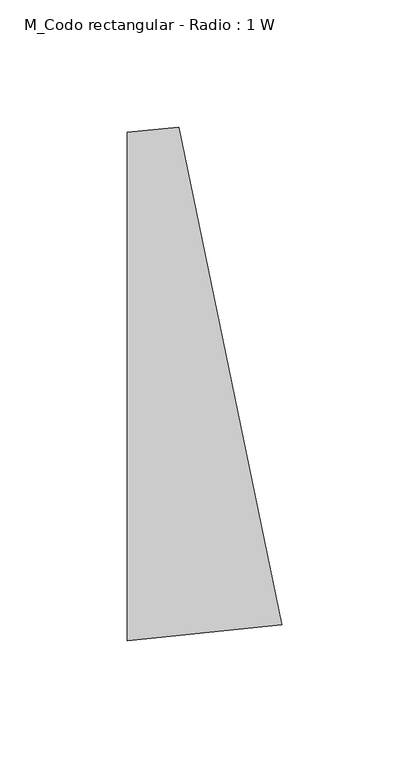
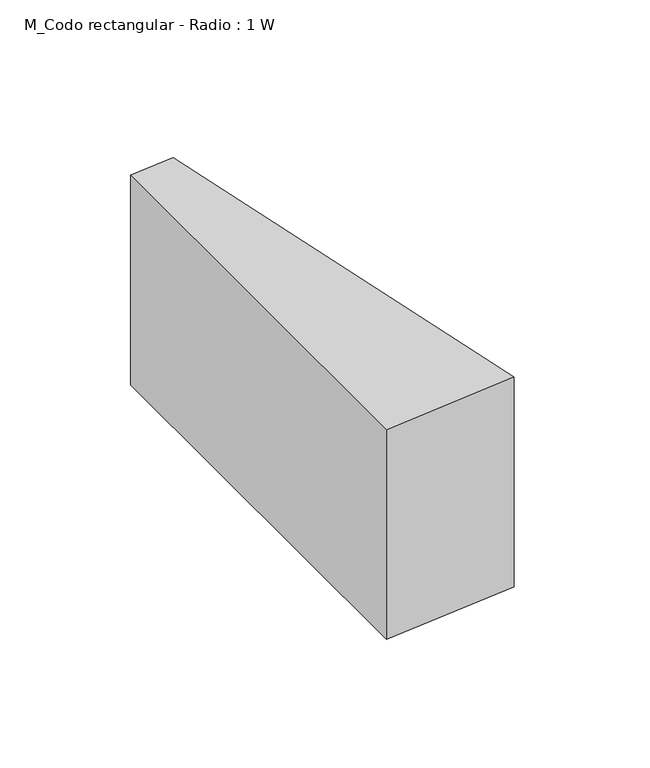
"""IFC4 building model written with IfcOpenShell, lengths in millimetres: duct fitting geometry, M_Codo rectangular - Radio : 1 W."""

from ifc_helpers import new_model, si_unit, point, frame, frame_2d, origin, place, context, project, spatial, polyline, circle_curve, trimmed, segment, composite_curve, outline, extrude, source, transform, mapped, element, save


def m_codo_rectangular_radio_1_w_934c6316(model_context):
    return source(origin(), model_context, "Body", "SweptSolid", [
        extrude(outline(composite_curve([segment(trimmed(circle_curve(frame_2d((-20.5061765, 200.0)), 300.0), [point((40.3723625, -93.7580697))], [point((-20.5061765, -100.0))], False, "CARTESIAN"), True, "CONTINUOUS"), segment(polyline([(-20.5061765, -100.0), (-20.5061765, 100.0)]), True, "CONTINUOUS"), segment(trimmed(circle_curve(frame_2d((-20.5061765, 200.0)), 100.0), [point((-20.5061765, 100.0))], [point((-0.2133302, 102.0806434))], True, "CARTESIAN"), True, "CONTINUOUS"), segment(polyline([(-0.2133302, 102.0806434), (40.3723625, -93.7580697)]), True, "CONTINUOUS")], self_intersect=False)), frame((0.0, 0.0, -50.0), z_axis=(0.0, 0.0, 1.0), x_axis=(1.0, 0.0, 0.0)), (0.0, 0.0, 1.0), 100.0),
    ])


if __name__ == "__main__":
    model = new_model("IFC4")
    model_context = context("Model", 3, world=origin())
    ifc_project = project(units=[si_unit("LENGTHUNIT", "METRE", prefix="MILLI")], contexts=[model_context])
    site = spatial("IfcSite", under=ifc_project)
    building = spatial("IfcBuilding", under=site)
    placement = place(None, origin())
    m_codo_rectangular_radio_1_w_shape = m_codo_rectangular_radio_1_w_934c6316(model_context)
    element("IfcDuctFitting", 1, ObjectType="M_Codo rectangular - Radio : 1 W", at=placement, inside=building, context=model_context, shape_type="MappedRepresentation", body=[
        mapped(m_codo_rectangular_radio_1_w_shape, transform((0.0, 0.0, 0.0), x_axis=(1.0, 0.0, 0.0), y_axis=(0.0, 1.0, 0.0), z_axis=(0.0, 0.0, 1.0))),
    ])
    save(model, "model.ifc")
